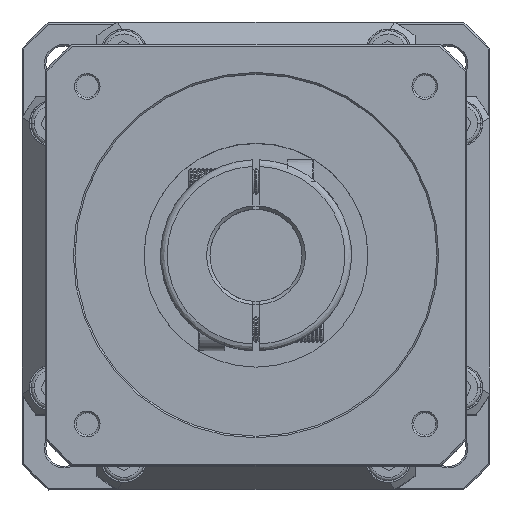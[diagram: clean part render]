
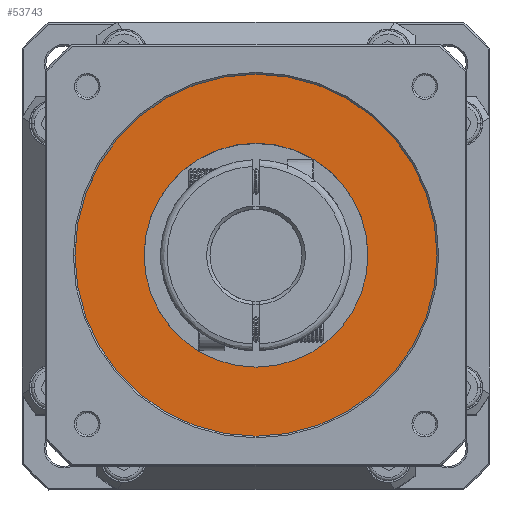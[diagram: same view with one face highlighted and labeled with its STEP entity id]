
A CAD part, top view. The second image highlights one B-rep face of the part: STEP entity #53743.
In plain terms, the highlighted planar face has unit normal (0, 0, -1).
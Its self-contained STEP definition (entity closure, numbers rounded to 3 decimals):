
#1533 = DIRECTION ( 'NONE',  ( 1., 0., 0. ) ) ;
#2213 = CARTESIAN_POINT ( 'NONE',  ( 34., 0., 182. ) ) ;
#4331 = CIRCLE ( 'NONE', #33391, 34. ) ;
#6874 = DIRECTION ( 'NONE',  ( 1., 0., 0. ) ) ;
#10101 = EDGE_CURVE ( 'NONE', #96330, #50374, #45465, .T. ) ;
#13661 = CARTESIAN_POINT ( 'NONE',  ( -55.66, -55.66, 182. ) ) ;
#18291 = AXIS2_PLACEMENT_3D ( 'NONE', #13661, #69409, #21637 ) ;
#21637 = DIRECTION ( 'NONE',  ( 1., 0., 0. ) ) ;
#24278 = CARTESIAN_POINT ( 'NONE',  ( -55., 0., 182. ) ) ;
#27743 = CARTESIAN_POINT ( 'NONE',  ( -34., 0., 182. ) ) ;
#28226 = FACE_BOUND ( 'NONE', #33764, .T. ) ;
#28296 = CARTESIAN_POINT ( 'NONE',  ( 0., 0., 182. ) ) ;
#32816 = AXIS2_PLACEMENT_3D ( 'NONE', #102464, #54630, #6874 ) ;
#33391 = AXIS2_PLACEMENT_3D ( 'NONE', #39755, #95607, #47773 ) ;
#33592 = ORIENTED_EDGE ( 'NONE', *, *, #51157, .T. ) ;
#33764 = EDGE_LOOP ( 'NONE', ( #33592, #40258 ) ) ;
#36279 = DIRECTION ( 'NONE',  ( -1., 0., 0. ) ) ;
#37575 = EDGE_CURVE ( 'NONE', #50374, #96330, #74189, .T. ) ;
#37659 = VERTEX_POINT ( 'NONE', #2213 ) ;
#39755 = CARTESIAN_POINT ( 'NONE',  ( 0., 0., 182. ) ) ;
#40258 = ORIENTED_EDGE ( 'NONE', *, *, #84044, .T. ) ;
#45465 = CIRCLE ( 'NONE', #32816, 55. ) ;
#47773 = DIRECTION ( 'NONE',  ( -1., 0., 0. ) ) ;
#49296 = DIRECTION ( 'NONE',  ( 0., 0., -1. ) ) ;
#49405 = FACE_OUTER_BOUND ( 'NONE', #94592, .T. ) ;
#50374 = VERTEX_POINT ( 'NONE', #24278 ) ;
#51157 = EDGE_CURVE ( 'NONE', #94394, #37659, #96210, .T. ) ;
#53743 = ADVANCED_FACE ( 'NONE', ( #28226, #49405 ), #85152, .F. ) ;
#54630 = DIRECTION ( 'NONE',  ( 0., 0., -1. ) ) ;
#59289 = ORIENTED_EDGE ( 'NONE', *, *, #10101, .T. ) ;
#69409 = DIRECTION ( 'NONE',  ( 0., 0., 1. ) ) ;
#74189 = CIRCLE ( 'NONE', #102159, 55. ) ;
#78326 = ORIENTED_EDGE ( 'NONE', *, *, #37575, .T. ) ;
#84044 = EDGE_CURVE ( 'NONE', #37659, #94394, #4331, .T. ) ;
#84137 = DIRECTION ( 'NONE',  ( 0., 0., 1. ) ) ;
#85152 = PLANE ( 'NONE',  #18291 ) ;
#89648 = AXIS2_PLACEMENT_3D ( 'NONE', #28296, #84137, #36279 ) ;
#94394 = VERTEX_POINT ( 'NONE', #27743 ) ;
#94592 = EDGE_LOOP ( 'NONE', ( #59289, #78326 ) ) ;
#95607 = DIRECTION ( 'NONE',  ( 0., 0., 1. ) ) ;
#96210 = CIRCLE ( 'NONE', #89648, 34. ) ;
#96218 = CARTESIAN_POINT ( 'NONE',  ( 55., 0., 182. ) ) ;
#96330 = VERTEX_POINT ( 'NONE', #96218 ) ;
#97131 = CARTESIAN_POINT ( 'NONE',  ( 0., 0., 182. ) ) ;
#102159 = AXIS2_PLACEMENT_3D ( 'NONE', #97131, #49296, #1533 ) ;
#102464 = CARTESIAN_POINT ( 'NONE',  ( 0., 0., 182. ) ) ;
